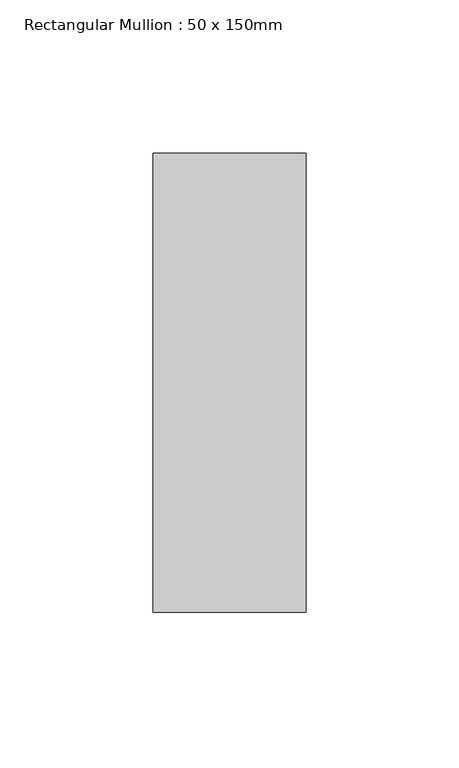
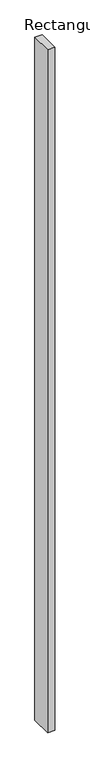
"""IFC4 building model written with IfcOpenShell, lengths in millimetres: member geometry, Rectangular Mullion : 50 x 150mm."""

from ifc_helpers import new_model, si_unit, frame, origin, place, context, project, spatial, polyline, outline, extrude, source, transform, mapped, element, save


def rectangular_mullion_50_x_150mm_c27df651(model_context):
    return source(origin(), model_context, "Body", "SweptSolid", [
        extrude(outline(polyline([(25.0, 75.0), (25.0, -75.0), (-25.0, -75.0), (-25.0, 75.0), (25.0, 75.0)])), frame((0.0, 0.0, -4961.8605451), z_axis=(0.0, 0.0, 1.0), x_axis=(1.0, 0.0, 0.0)), (0.0, 0.0, 1.0), 4961.8605451),
    ])


if __name__ == "__main__":
    model = new_model("IFC4")
    model_context = context("Model", 3, world=origin())
    ifc_project = project(units=[si_unit("LENGTHUNIT", "METRE", prefix="MILLI")], contexts=[model_context])
    site = spatial("IfcSite", under=ifc_project)
    building = spatial("IfcBuilding", under=site)
    placement = place(None, origin())
    rectangular_mullion_50_x_150mm_shape = rectangular_mullion_50_x_150mm_c27df651(model_context)
    element("IfcMember", 1, ObjectType="Rectangular Mullion : 50 x 150mm", at=placement, inside=building, context=model_context, shape_type="MappedRepresentation", body=[
        mapped(rectangular_mullion_50_x_150mm_shape, transform((0.0, 0.0, 0.0), x_axis=(1.0, 0.0, 0.0), y_axis=(0.0, 1.0, 0.0), z_axis=(0.0, 0.0, 1.0))),
    ])
    save(model, "model.ifc")
